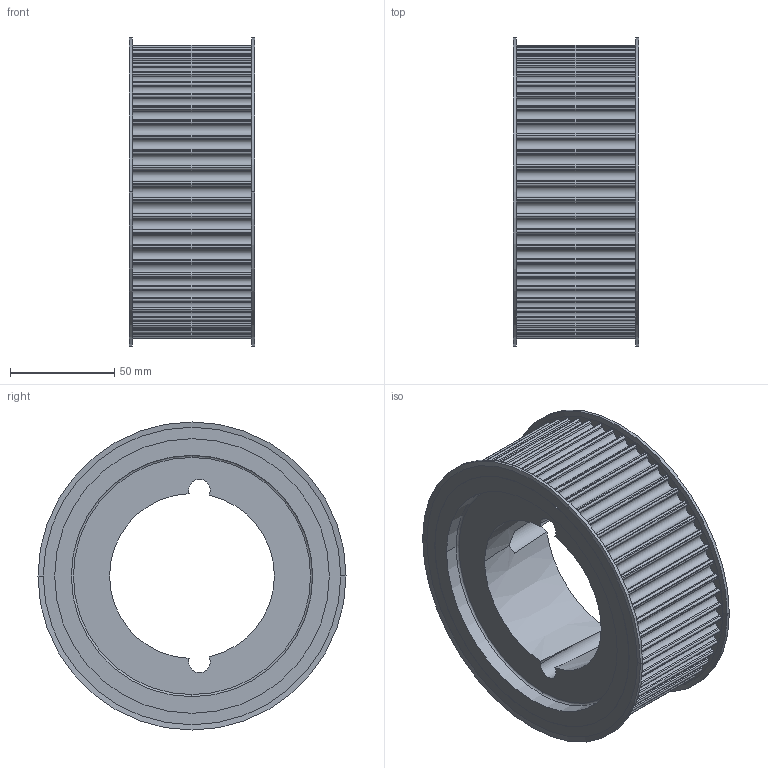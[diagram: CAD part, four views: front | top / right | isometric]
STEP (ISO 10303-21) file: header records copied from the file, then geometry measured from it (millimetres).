
FILE_DESCRIPTION( ( '' ), '1' );
FILE_NAME( 'C:/Users/Stangenbergd/Documents/CAD_Step/1/17477428.stp', '2021-10-19T10:20:47', ( '' ), ( '' ), ' ', ' ', ' ' );
FILE_SCHEMA( ( 'CONFIG_CONTROL_DESIGN' ) );
Length unit declared in the file: millimetre
Products named in the file (1): 1
Bounding box: 60.4 x 148 x 148 mm (x, y, z)
Volume: 487411 mm3; surface area: 84762.4 mm2
Topology: 1 solids, 1 shells, 382 faces, 1117 edges, 741 vertices
Faces by surface type: cylinder 244, plane 120, cone 14, torus 4
Entity records: 13049 total; most frequent: CARTESIAN_POINT 2387, DIRECTION 2383, ORIENTED_EDGE 2230, EDGE_CURVE 1115, AXIS2_PLACEMENT_3D 897, VERTEX_POINT 741, LINE 589, VECTOR 589
